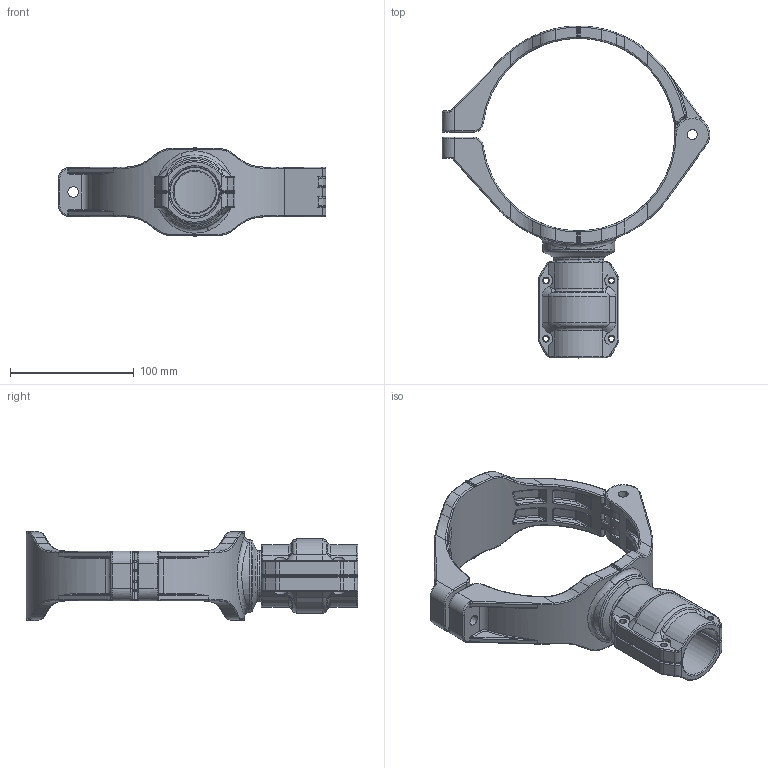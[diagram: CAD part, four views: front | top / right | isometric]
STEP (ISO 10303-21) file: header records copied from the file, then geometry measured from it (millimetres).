
FILE_DESCRIPTION((''),'2;1');
FILE_NAME('2015941099_ASM_5_ASM','2017-05-15T',('Administrator'),(''),'PRO/ENGINEER BY PARAMETRIC TECHNOLOGY CORPORATION, 2009360','PRO/ENGINEER BY PARAMETRIC TECHNOLOGY CORPORATION, 2009360','');
FILE_SCHEMA(('AUTOMOTIVE_DESIGN_CC2 { 1 2 10303 214 -1 1 5 2 }'));
Length unit declared in the file: millimetre
Products named in the file (8): MANIFOLD_SOLID_BREP_95_6_1; MANIFOLD_SOLID_BREP_96_6_1; 20159410000_ASM_6_ASM_1_ASM; 20159410000_ASM_ASM_1_ASM; 201540020001_1; 201540020000_1; 2015400200_ASM_1_ASM; 2015941099_ASM_5_ASM
Assembly tree (7 placements, depth 4):
  2015941099_ASM_5_ASM
    20159410000_ASM_ASM_1_ASM
      20159410000_ASM_6_ASM_1_ASM
        MANIFOLD_SOLID_BREP_95_6_1
        MANIFOLD_SOLID_BREP_96_6_1
    2015400200_ASM_1_ASM
      201540020001_1
      201540020000_1
Bounding box: 216.2 x 268.2 x 72.54 mm (x, y, z)
Volume: 404557.2 mm3; surface area: 126872.5 mm2
Topology: 4 solids, 4 shells, 1002 faces, 2443 edges, 1363 vertices
Faces by surface type: cylinder 340, bspline 218, torus 216, plane 146, sphere 72, cone 10
Entity records: 54104 total; most frequent: CARTESIAN_POINT 25163, ORIENTED_EDGE 4678, DIRECTION 4469, PRESENTATION_STYLE_ASSIGNMENT 2343, STYLED_ITEM 2343, CURVE_STYLE 2339, EDGE_CURVE 2339, AXIS2_PLACEMENT_3D 1936
